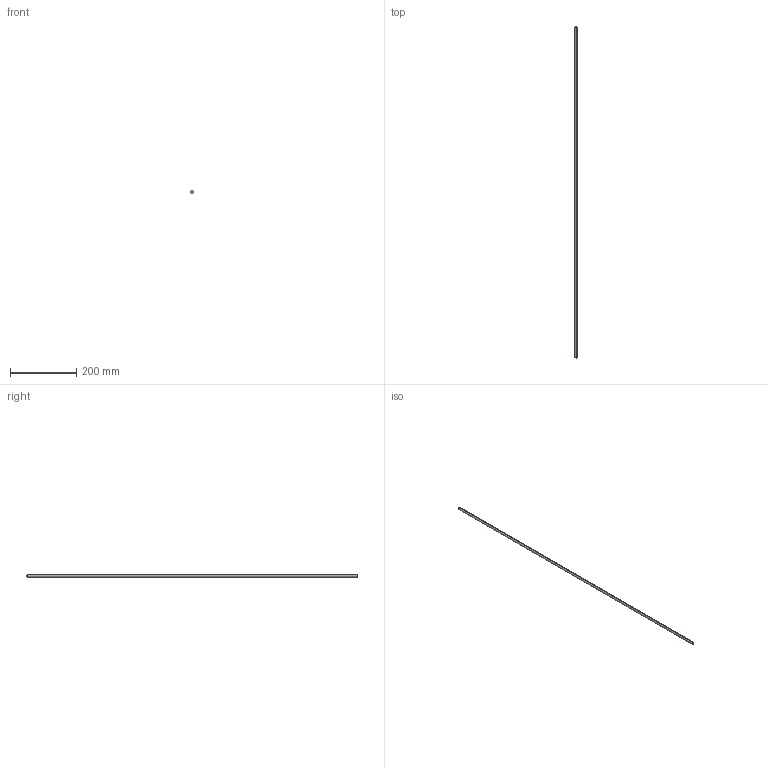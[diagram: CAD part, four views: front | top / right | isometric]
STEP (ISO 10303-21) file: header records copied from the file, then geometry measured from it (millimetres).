
FILE_DESCRIPTION (( 'STEP AP214' ), '1' );
FILE_NAME ('P28-UL.STEP', '2016-08-18T06:26:31', ( 'RST-Dolba' ), ( '' ), 'SwSTEP 2.0', 'SolidWorks 2015', '' );
FILE_SCHEMA (( 'AUTOMOTIVE_DESIGN' ));
Length unit declared in the file: millimetre
Products named in the file (1): P28-UL
Bounding box: 8 x 1000 x 8 mm (x, y, z)
Volume: 50079.7 mm3; surface area: 25131.8 mm2
Topology: 1 solids, 1 shells, 6 faces, 10 edges, 6 vertices
Faces by surface type: cone 2, cylinder 2, plane 2
Entity records: 178 total; most frequent: DIRECTION 30, CARTESIAN_POINT 23, ORIENTED_EDGE 20, AXIS2_PLACEMENT_3D 13, EDGE_CURVE 10, FACE_OUTER_BOUND 6, ADVANCED_FACE 6, CIRCLE 6
